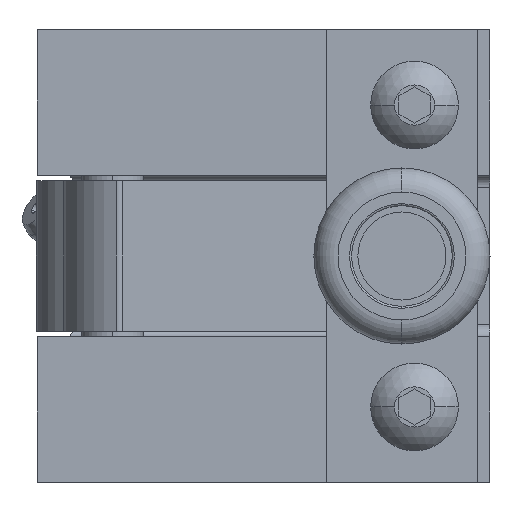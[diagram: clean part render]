
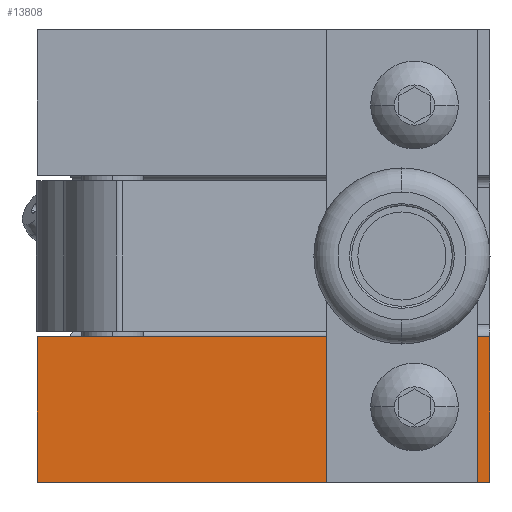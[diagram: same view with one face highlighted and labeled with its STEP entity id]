
A CAD part, left-side view. The second image highlights one B-rep face of the part: STEP entity #13808.
In plain terms, the highlighted planar face has unit normal (-1, 0, 0).
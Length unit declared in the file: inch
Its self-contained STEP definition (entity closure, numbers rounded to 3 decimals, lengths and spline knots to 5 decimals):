
#5124 = VERTEX_POINT ( 'NONE', #6635 ) ;
#5185 = EDGE_CURVE ( 'NONE', #5124, #5186, #6802, .T. ) ;
#5186 = VERTEX_POINT ( 'NONE', #6797 ) ;
#6056 = VERTEX_POINT ( 'NONE', #16987 ) ;
#6058 = EDGE_CURVE ( 'NONE', #6087, #6056, #17047, .T. ) ;
#6087 = VERTEX_POINT ( 'NONE', #17053 ) ;
#6635 = CARTESIAN_POINT ( 'NONE',  ( 7.43951, 4.12904, -2. ) ) ;
#6797 = CARTESIAN_POINT ( 'NONE',  ( 7.43951, 4.12904, -1.75 ) ) ;
#6798 = DIRECTION ( 'NONE',  ( 0., 0., 1. ) ) ;
#6799 = DIRECTION ( 'NONE',  ( -1., 0., 0. ) ) ;
#6800 = CARTESIAN_POINT ( 'NONE',  ( 7.43951, 4.12904, -1.875 ) ) ;
#6801 = AXIS2_PLACEMENT_3D ( 'NONE', #6800, #6799, #6798 ) ;
#6802 = CIRCLE ( 'NONE', #6801, 0.125 ) ;
#7600 = DIRECTION ( 'NONE',  ( 0., 0., 1. ) ) ;
#7601 = VECTOR ( 'NONE', #7600, 39.37008 ) ;
#7602 = CARTESIAN_POINT ( 'NONE',  ( 7.43951, 6.00404, -2.25 ) ) ;
#7603 = LINE ( 'NONE', #7602, #7601 ) ;
#7938 = DIRECTION ( 'NONE',  ( 0., -1., 0. ) ) ;
#7939 = VECTOR ( 'NONE', #7938, 39.37008 ) ;
#7940 = CARTESIAN_POINT ( 'NONE',  ( 7.43951, 3.75404, -1.525 ) ) ;
#7941 = LINE ( 'NONE', #7940, #7939 ) ;
#8169 = DIRECTION ( 'NONE',  ( 0., 0., 1. ) ) ;
#8170 = DIRECTION ( 'NONE',  ( -1., 0., 0. ) ) ;
#8171 = CARTESIAN_POINT ( 'NONE',  ( 7.43951, 4.12904, -1.875 ) ) ;
#8172 = AXIS2_PLACEMENT_3D ( 'NONE', #8171, #8170, #8169 ) ;
#8174 = CIRCLE ( 'NONE', #8172, 0.125 ) ;
#10844 = EDGE_LOOP ( 'NONE', ( #10947, #15594 ) ) ;
#10947 = ORIENTED_EDGE ( 'NONE', *, *, #15608, .F. ) ;
#13808 = ADVANCED_FACE ( 'NONE', ( #20211, #20210 ), #20209, .T. ) ;
#14868 = VERTEX_POINT ( 'NONE', #20500 ) ;
#14870 = EDGE_CURVE ( 'NONE', #14868, #6087, #20499, .T. ) ;
#14898 = ORIENTED_EDGE ( 'NONE', *, *, #6058, .T. ) ;
#14913 = ORIENTED_EDGE ( 'NONE', *, *, #14870, .T. ) ;
#15236 = ORIENTED_EDGE ( 'NONE', *, *, #15492, .F. ) ;
#15270 = VERTEX_POINT ( 'NONE', #21164 ) ;
#15492 = EDGE_CURVE ( 'NONE', #14868, #15270, #7603, .T. ) ;
#15594 = ORIENTED_EDGE ( 'NONE', *, *, #5185, .F. ) ;
#15599 = EDGE_CURVE ( 'NONE', #15270, #6056, #7941, .T. ) ;
#15600 = EDGE_LOOP ( 'NONE', ( #15605, #15236, #14913, #14898 ) ) ;
#15605 = ORIENTED_EDGE ( 'NONE', *, *, #15599, .F. ) ;
#15608 = EDGE_CURVE ( 'NONE', #5186, #5124, #8174, .T. ) ;
#16987 = CARTESIAN_POINT ( 'NONE',  ( 7.43951, 3.75404, -1.525 ) ) ;
#17044 = DIRECTION ( 'NONE',  ( 0., 0., 1. ) ) ;
#17045 = VECTOR ( 'NONE', #17044, 39.37008 ) ;
#17046 = CARTESIAN_POINT ( 'NONE',  ( 7.43951, 3.75404, -2.25 ) ) ;
#17047 = LINE ( 'NONE', #17046, #17045 ) ;
#17053 = CARTESIAN_POINT ( 'NONE',  ( 7.43951, 3.75404, -2.25 ) ) ;
#20204 = DIRECTION ( 'NONE',  ( 0., 0., 1. ) ) ;
#20205 = DIRECTION ( 'NONE',  ( -1., 0., 0. ) ) ;
#20207 = CARTESIAN_POINT ( 'NONE',  ( 7.43951, 3.75404, -2.25 ) ) ;
#20208 = AXIS2_PLACEMENT_3D ( 'NONE', #20207, #20205, #20204 ) ;
#20209 = PLANE ( 'NONE',  #20208 ) ;
#20210 = FACE_OUTER_BOUND ( 'NONE', #15600, .T. ) ;
#20211 = FACE_BOUND ( 'NONE', #10844, .T. ) ;
#20496 = DIRECTION ( 'NONE',  ( 0., -1., 0. ) ) ;
#20497 = VECTOR ( 'NONE', #20496, 39.37008 ) ;
#20498 = CARTESIAN_POINT ( 'NONE',  ( 7.43951, 3.75404, -2.25 ) ) ;
#20499 = LINE ( 'NONE', #20498, #20497 ) ;
#20500 = CARTESIAN_POINT ( 'NONE',  ( 7.43951, 6.00404, -2.25 ) ) ;
#21164 = CARTESIAN_POINT ( 'NONE',  ( 7.43951, 6.00404, -1.525 ) ) ;
